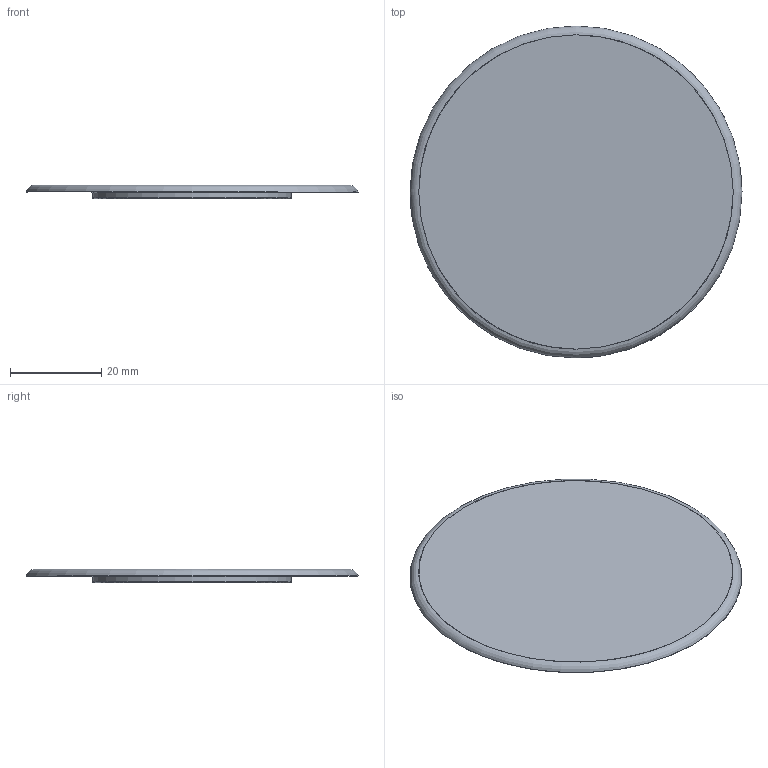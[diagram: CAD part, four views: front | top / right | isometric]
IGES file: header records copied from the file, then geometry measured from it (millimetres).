
Start section: --------------------------------------------------------------------- IGES file generated by CADlook_v12.0.  Visit http://www.cadlook.com for more information on CADlook translators and viewers. ---------------------------------------------------------------------
Global section: file name: X:\progetto-gas\File_clienti\Europa\Set-base_SerieI\Semirapido\CAP-SR-04-A2.igs; native system: Cimatron E 9.0; preprocessor: CADlook_v12.0; author: aquintaba; organization: None; date: 20100722.084539; units: millimetre
Bounding box: 72.87 x 72.87 x 3 mm (x, y, z)
Surface area: 8682.8 mm2 (no closed solid volume)
Topology: 0 solids, 0 shells, 7 faces, 53 edges, 63 vertices
Faces by surface type: revolution 4, bspline 3
